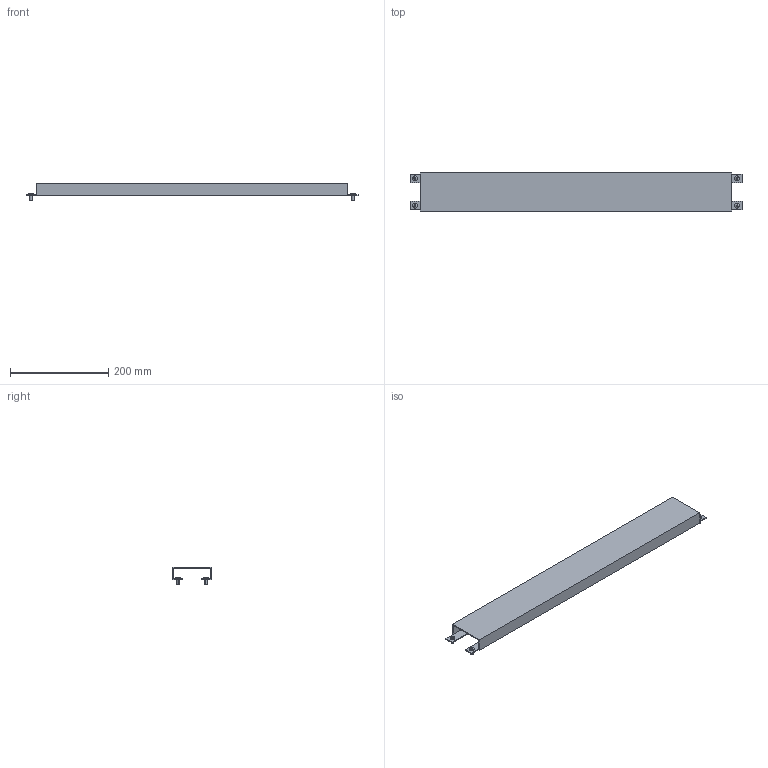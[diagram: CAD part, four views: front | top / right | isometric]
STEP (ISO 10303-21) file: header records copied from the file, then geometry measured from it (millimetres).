
FILE_DESCRIPTION(('Open CASCADE Model'),'2;1');
FILE_NAME('Open CASCADE Shape Model','2025-02-27T09:51:07',('Author'),( 'Open CASCADE'),'Open CASCADE STEP processor 7.8','Open CASCADE 7.8' ,'Unknown');
FILE_SCHEMA(('AUTOMOTIVE_DESIGN { 1 0 10303 214 1 1 1 1 }'));
Length unit declared in the file: millimetre
Products named in the file (3): Compound1; Solid1; Solid2
Assembly tree (5 placements, depth 2):
  Compound1
    Solid1
    Solid2  x4
Bounding box: 675 x 78 x 36 mm (x, y, z)
Volume: 209467.1 mm3; surface area: 213156.2 mm2
Topology: 5 solids, 5 shells, 138 faces, 320 edges, 188 vertices
Faces by surface type: plane 66, cylinder 24, cone 16, torus 16, bspline 8, sphere 8
Entity records: 2246 total; most frequent: CARTESIAN_POINT 559, DIRECTION 342, ORIENTED_EDGE 336, EDGE_CURVE 168, AXIS2_PLACEMENT_3D 114, LINE 114, VECTOR 114, VERTEX_POINT 107
